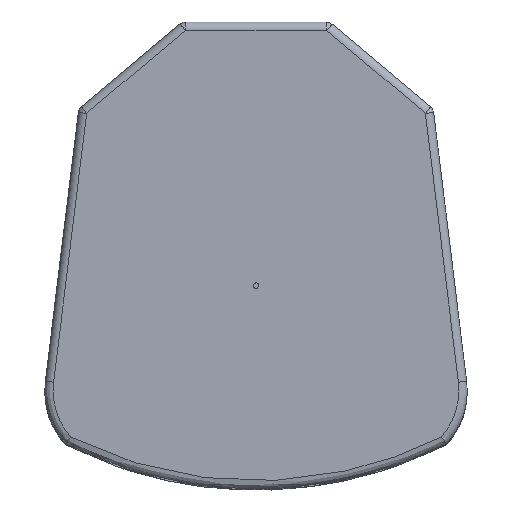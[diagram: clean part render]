
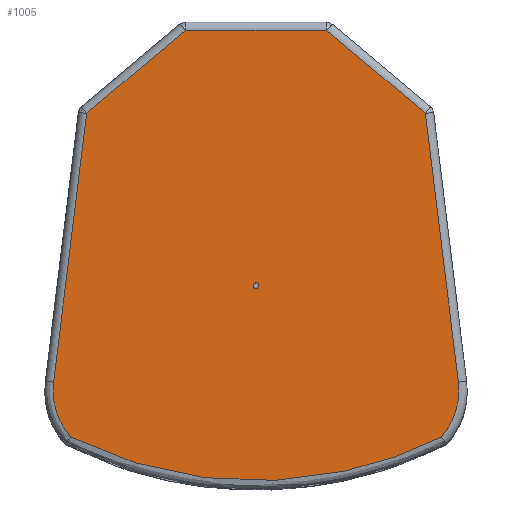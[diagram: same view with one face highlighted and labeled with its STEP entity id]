
A CAD part, top view. The second image highlights one B-rep face of the part: STEP entity #1005.
In plain terms, the highlighted planar face has unit normal (0, 0, 1).
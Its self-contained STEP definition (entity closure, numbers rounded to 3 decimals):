
#37=FACE_BOUND('',#1347,.T.);
#256=B_SPLINE_CURVE_WITH_KNOTS('',1,(#9729,#9730),.UNSPECIFIED.,.F.,.F.,
(2,2),(0.,126.531),.UNSPECIFIED.);
#1005=ADVANCED_FACE('',(#1172,#37),#4226,.T.);
#1172=FACE_OUTER_BOUND('',#1346,.T.);
#1346=EDGE_LOOP('',(#2058,#2059,#2060,#2061,#2062,#2063,#2064,#2065,#2066,
#2067,#2068,#2069));
#1347=EDGE_LOOP('',(#2070));
#2058=ORIENTED_EDGE('',*,*,#2825,.T.);
#2059=ORIENTED_EDGE('',*,*,#2818,.T.);
#2060=ORIENTED_EDGE('',*,*,#2826,.T.);
#2061=ORIENTED_EDGE('',*,*,#2827,.T.);
#2062=ORIENTED_EDGE('',*,*,#2828,.T.);
#2063=ORIENTED_EDGE('',*,*,#2829,.T.);
#2064=ORIENTED_EDGE('',*,*,#2819,.T.);
#2065=ORIENTED_EDGE('',*,*,#2820,.T.);
#2066=ORIENTED_EDGE('',*,*,#2821,.T.);
#2067=ORIENTED_EDGE('',*,*,#2822,.T.);
#2068=ORIENTED_EDGE('',*,*,#2823,.T.);
#2069=ORIENTED_EDGE('',*,*,#2824,.T.);
#2070=ORIENTED_EDGE('',*,*,#2830,.T.);
#2818=EDGE_CURVE('',#4107,#4116,#256,.T.);
#2819=EDGE_CURVE('',#4109,#4117,#3367,.T.);
#2820=EDGE_CURVE('',#4117,#4111,#3368,.T.);
#2821=EDGE_CURVE('',#4111,#4112,#3369,.T.);
#2822=EDGE_CURVE('',#4112,#4115,#3370,.T.);
#2823=EDGE_CURVE('',#4115,#4110,#3371,.T.);
#2824=EDGE_CURVE('',#4110,#4106,#3372,.T.);
#2825=EDGE_CURVE('',#4106,#4107,#3373,.T.);
#2826=EDGE_CURVE('',#4116,#4114,#3374,.T.);
#2827=EDGE_CURVE('',#4114,#4113,#3375,.T.);
#2828=EDGE_CURVE('',#4113,#4108,#3376,.T.);
#2829=EDGE_CURVE('',#4108,#4109,#3377,.T.);
#2830=EDGE_CURVE('',#4118,#4118,#3378,.T.);
#3367=(
BOUNDED_CURVE()
B_SPLINE_CURVE(3,(#9731,#9732,#9733,#9734,#9735),.UNSPECIFIED.,.F.,.F.)
B_SPLINE_CURVE_WITH_KNOTS((4,1,4),(0.,28.056,53.102),
 .UNSPECIFIED.)
CURVE()
GEOMETRIC_REPRESENTATION_ITEM()
RATIONAL_B_SPLINE_CURVE((1.,1.,1.,1.,1.))
REPRESENTATION_ITEM('')
);
#3368=(
BOUNDED_CURVE()
B_SPLINE_CURVE(3,(#9736,#9737,#9738,#9739,#9740,#9741,#9742),
 .UNSPECIFIED.,.F.,.F.)
B_SPLINE_CURVE_WITH_KNOTS((4,1,1,1,4),(1.369,57.987,
133.218,240.478,346.862),.UNSPECIFIED.)
CURVE()
GEOMETRIC_REPRESENTATION_ITEM()
RATIONAL_B_SPLINE_CURVE((1.,1.,1.,1.,1.,1.,
1.))
REPRESENTATION_ITEM('')
);
#3369=(
BOUNDED_CURVE()
B_SPLINE_CURVE(3,(#9743,#9744,#9745,#9746,#9747),.UNSPECIFIED.,.F.,.F.)
B_SPLINE_CURVE_WITH_KNOTS((4,1,4),(1.311,28.056,54.413),
 .UNSPECIFIED.)
CURVE()
GEOMETRIC_REPRESENTATION_ITEM()
RATIONAL_B_SPLINE_CURVE((1.,1.,1.,1.,1.))
REPRESENTATION_ITEM('')
);
#3370=(
BOUNDED_CURVE()
B_SPLINE_CURVE(1,(#9748,#9749),.UNSPECIFIED.,.F.,.F.)
B_SPLINE_CURVE_WITH_KNOTS((2,2),(0.,243.474),
 .UNSPECIFIED.)
CURVE()
GEOMETRIC_REPRESENTATION_ITEM()
RATIONAL_B_SPLINE_CURVE((1.,1.))
REPRESENTATION_ITEM('')
);
#3371=(
BOUNDED_CURVE()
B_SPLINE_CURVE(3,(#9750,#9751,#9752,#9753,#9754,#9755,#9756),
 .UNSPECIFIED.,.F.,.F.)
B_SPLINE_CURVE_WITH_KNOTS((4,3,4),(0.,0.,
0.375),.UNSPECIFIED.)
CURVE()
GEOMETRIC_REPRESENTATION_ITEM()
RATIONAL_B_SPLINE_CURVE((1.,1.,1.,1.,1.,1.,1.))
REPRESENTATION_ITEM('')
);
#3372=(
BOUNDED_CURVE()
B_SPLINE_CURVE(1,(#9757,#9758),.UNSPECIFIED.,.F.,.F.)
B_SPLINE_CURVE_WITH_KNOTS((2,2),(0.,115.535),
 .UNSPECIFIED.)
CURVE()
GEOMETRIC_REPRESENTATION_ITEM()
RATIONAL_B_SPLINE_CURVE((1.,1.))
REPRESENTATION_ITEM('')
);
#3373=(
BOUNDED_CURVE()
B_SPLINE_CURVE(3,(#9759,#9760,#9761,#9762,#9763,#9764,#9765),
 .UNSPECIFIED.,.F.,.F.)
B_SPLINE_CURVE_WITH_KNOTS((4,3,4),(0.,0.349,
0.349),.UNSPECIFIED.)
CURVE()
GEOMETRIC_REPRESENTATION_ITEM()
RATIONAL_B_SPLINE_CURVE((1.,1.,1.,1.,1.,1.,1.))
REPRESENTATION_ITEM('')
);
#3374=(
BOUNDED_CURVE()
B_SPLINE_CURVE(3,(#9766,#9767,#9768,#9769,#9770,#9771,#9772),
 .UNSPECIFIED.,.F.,.F.)
B_SPLINE_CURVE_WITH_KNOTS((4,3,4),(0.,0.349,
0.349),.UNSPECIFIED.)
CURVE()
GEOMETRIC_REPRESENTATION_ITEM()
RATIONAL_B_SPLINE_CURVE((1.,1.,1.,1.,1.,1.,1.))
REPRESENTATION_ITEM('')
);
#3375=(
BOUNDED_CURVE()
B_SPLINE_CURVE(1,(#9773,#9774),.UNSPECIFIED.,.F.,.F.)
B_SPLINE_CURVE_WITH_KNOTS((2,2),(0.,115.535),
 .UNSPECIFIED.)
CURVE()
GEOMETRIC_REPRESENTATION_ITEM()
RATIONAL_B_SPLINE_CURVE((1.,1.))
REPRESENTATION_ITEM('')
);
#3376=(
BOUNDED_CURVE()
B_SPLINE_CURVE(3,(#9775,#9776,#9777,#9778,#9779,#9780,#9781),
 .UNSPECIFIED.,.F.,.F.)
B_SPLINE_CURVE_WITH_KNOTS((4,3,4),(0.,0.,
0.375),.UNSPECIFIED.)
CURVE()
GEOMETRIC_REPRESENTATION_ITEM()
RATIONAL_B_SPLINE_CURVE((1.,1.,1.,1.,1.,1.,1.))
REPRESENTATION_ITEM('')
);
#3377=(
BOUNDED_CURVE()
B_SPLINE_CURVE(1,(#9782,#9783),.UNSPECIFIED.,.F.,.F.)
B_SPLINE_CURVE_WITH_KNOTS((2,2),(0.,243.474),
 .UNSPECIFIED.)
CURVE()
GEOMETRIC_REPRESENTATION_ITEM()
RATIONAL_B_SPLINE_CURVE((1.,1.))
REPRESENTATION_ITEM('')
);
#3378=(
BOUNDED_CURVE()
B_SPLINE_CURVE(2,(#9784,#9785,#9786,#9787,#9788,#9789,#9790,#9791,#9792),
 .UNSPECIFIED.,.T.,.F.)
B_SPLINE_CURVE_WITH_KNOTS((3,2,2,2,3),(0.,3.927,7.854,
11.781,15.708),.UNSPECIFIED.)
CURVE()
GEOMETRIC_REPRESENTATION_ITEM()
RATIONAL_B_SPLINE_CURVE((1.,0.707,1.,0.707,1.,0.707,
1.,0.707,1.))
REPRESENTATION_ITEM('')
);
#4106=VERTEX_POINT('',#9716);
#4107=VERTEX_POINT('',#9717);
#4108=VERTEX_POINT('',#9718);
#4109=VERTEX_POINT('',#9719);
#4110=VERTEX_POINT('',#9720);
#4111=VERTEX_POINT('',#9721);
#4112=VERTEX_POINT('',#9722);
#4113=VERTEX_POINT('',#9723);
#4114=VERTEX_POINT('',#9724);
#4115=VERTEX_POINT('',#9725);
#4116=VERTEX_POINT('',#9726);
#4117=VERTEX_POINT('',#9727);
#4118=VERTEX_POINT('',#9728);
#4226=PLANE('',#4282);
#4282=AXIS2_PLACEMENT_3D('',#9715,#4321,$);
#4321=DIRECTION('',(0.,0.,1.));
#9715=CARTESIAN_POINT('',(237.387,262.496,295.));
#9716=CARTESIAN_POINT('',(63.593,202.378,295.));
#9717=CARTESIAN_POINT('',(63.272,202.495,295.));
#9718=CARTESIAN_POINT('',(-152.26,127.792,295.));
#9719=CARTESIAN_POINT('',(-181.932,-113.867,295.));
#9720=CARTESIAN_POINT('',(152.098,128.114,295.));
#9721=CARTESIAN_POINT('',(166.591,-163.046,295.));
#9722=CARTESIAN_POINT('',(181.945,-113.867,295.));
#9723=CARTESIAN_POINT('',(-152.085,128.114,295.));
#9724=CARTESIAN_POINT('',(-63.58,202.378,295.));
#9725=CARTESIAN_POINT('',(152.273,127.792,295.));
#9726=CARTESIAN_POINT('',(-63.259,202.495,295.));
#9727=CARTESIAN_POINT('',(-166.577,-163.046,295.));
#9728=CARTESIAN_POINT('',(2.507,-27.004,295.));
#9729=CARTESIAN_POINT('',(63.272,202.495,295.));
#9730=CARTESIAN_POINT('',(-63.259,202.495,295.));
#9731=CARTESIAN_POINT('',(-181.932,-113.867,295.));
#9732=CARTESIAN_POINT('',(-183.084,-123.151,295.));
#9733=CARTESIAN_POINT('',(-181.21,-141.202,295.));
#9734=CARTESIAN_POINT('',(-172.132,-156.814,295.));
#9735=CARTESIAN_POINT('',(-166.577,-163.046,295.));
#9736=CARTESIAN_POINT('',(-166.577,-163.046,295.));
#9737=CARTESIAN_POINT('',(-149.71,-171.514,295.));
#9738=CARTESIAN_POINT('',(-108.925,-188.223,295.));
#9739=CARTESIAN_POINT('',(-30.596,-205.054,295.));
#9740=CARTESIAN_POINT('',(66.644,-201.721,295.));
#9741=CARTESIAN_POINT('',(134.901,-178.958,295.));
#9742=CARTESIAN_POINT('',(166.591,-163.046,295.));
#9743=CARTESIAN_POINT('',(166.591,-163.046,295.));
#9744=CARTESIAN_POINT('',(172.525,-156.392,295.));
#9745=CARTESIAN_POINT('',(181.408,-140.613,295.));
#9746=CARTESIAN_POINT('',(183.024,-122.587,295.));
#9747=CARTESIAN_POINT('',(181.945,-113.867,295.));
#9748=CARTESIAN_POINT('',(181.945,-113.867,295.));
#9749=CARTESIAN_POINT('',(152.273,127.792,295.));
#9750=CARTESIAN_POINT('',(152.273,127.792,295.));
#9751=CARTESIAN_POINT('',(152.273,127.792,295.));
#9752=CARTESIAN_POINT('',(152.273,127.792,295.));
#9753=CARTESIAN_POINT('',(152.273,127.792,295.));
#9754=CARTESIAN_POINT('',(152.258,127.916,295.));
#9755=CARTESIAN_POINT('',(152.194,128.034,295.));
#9756=CARTESIAN_POINT('',(152.098,128.114,295.));
#9757=CARTESIAN_POINT('',(152.098,128.114,295.));
#9758=CARTESIAN_POINT('',(63.593,202.378,295.));
#9759=CARTESIAN_POINT('',(63.593,202.378,295.));
#9760=CARTESIAN_POINT('',(63.504,202.454,295.));
#9761=CARTESIAN_POINT('',(63.388,202.496,295.));
#9762=CARTESIAN_POINT('',(63.272,202.495,295.));
#9763=CARTESIAN_POINT('',(63.272,202.495,295.));
#9764=CARTESIAN_POINT('',(63.272,202.495,295.));
#9765=CARTESIAN_POINT('',(63.272,202.495,295.));
#9766=CARTESIAN_POINT('',(-63.259,202.495,295.));
#9767=CARTESIAN_POINT('',(-63.375,202.496,295.));
#9768=CARTESIAN_POINT('',(-63.491,202.454,295.));
#9769=CARTESIAN_POINT('',(-63.58,202.378,295.));
#9770=CARTESIAN_POINT('',(-63.58,202.378,295.));
#9771=CARTESIAN_POINT('',(-63.58,202.378,295.));
#9772=CARTESIAN_POINT('',(-63.58,202.378,295.));
#9773=CARTESIAN_POINT('',(-63.58,202.378,295.));
#9774=CARTESIAN_POINT('',(-152.085,128.114,295.));
#9775=CARTESIAN_POINT('',(-152.085,128.114,295.));
#9776=CARTESIAN_POINT('',(-152.085,128.114,295.));
#9777=CARTESIAN_POINT('',(-152.085,128.114,295.));
#9778=CARTESIAN_POINT('',(-152.085,128.114,295.));
#9779=CARTESIAN_POINT('',(-152.182,128.034,295.));
#9780=CARTESIAN_POINT('',(-152.245,127.916,295.));
#9781=CARTESIAN_POINT('',(-152.26,127.792,295.));
#9782=CARTESIAN_POINT('',(-152.26,127.792,295.));
#9783=CARTESIAN_POINT('',(-181.932,-113.867,295.));
#9784=CARTESIAN_POINT('',(2.507,-27.004,295.));
#9785=CARTESIAN_POINT('',(2.507,-29.504,295.));
#9786=CARTESIAN_POINT('',(0.007,-29.504,295.));
#9787=CARTESIAN_POINT('',(-2.493,-29.504,295.));
#9788=CARTESIAN_POINT('',(-2.493,-27.004,295.));
#9789=CARTESIAN_POINT('',(-2.493,-24.504,295.));
#9790=CARTESIAN_POINT('',(0.007,-24.504,295.));
#9791=CARTESIAN_POINT('',(2.507,-24.504,295.));
#9792=CARTESIAN_POINT('',(2.507,-27.004,295.));
